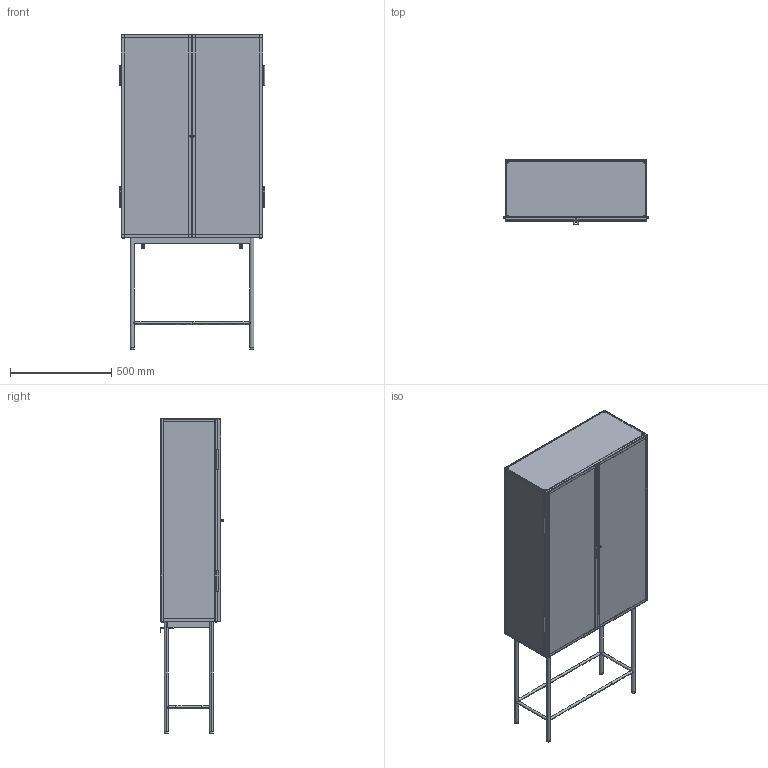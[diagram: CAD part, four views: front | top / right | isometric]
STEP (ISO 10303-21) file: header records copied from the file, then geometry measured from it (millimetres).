
FILE_DESCRIPTION(/* description */ (''),/* implementation_level */ '2;1');
FILE_NAME(/* name */ '171113_Haze Vitrine',/* time_stamp */ '2017-11-13T09:57:24+01:00',/* author */ (''),/* organization */ (''),/* preprocessor_version */ 'ST-DEVELOPER v15',/* originating_system */ '',/* authorisation */ '');
FILE_SCHEMA (('AUTOMOTIVE_DESIGN'));
Length unit declared in the file: millimetre
Products named in the file (1): Document
Bounding box: 715.98 x 315 x 1550 mm (x, y, z)
Volume: 10969394.3 mm3; surface area: 6659013.1 mm2
Topology: 62 solids, 66 shells, 607 faces, 1326 edges, 799 vertices
Faces by surface type: plane 306, bspline 301
Entity records: 17491 total; most frequent: CARTESIAN_POINT 9163, ORIENTED_EDGE 2540, EDGE_CURVE 1274, VERTEX_POINT 799, B_SPLINE_CURVE_WITH_KNOTS 691, EDGE_LOOP 661, ADVANCED_FACE 607, FACE_OUTER_BOUND 607
